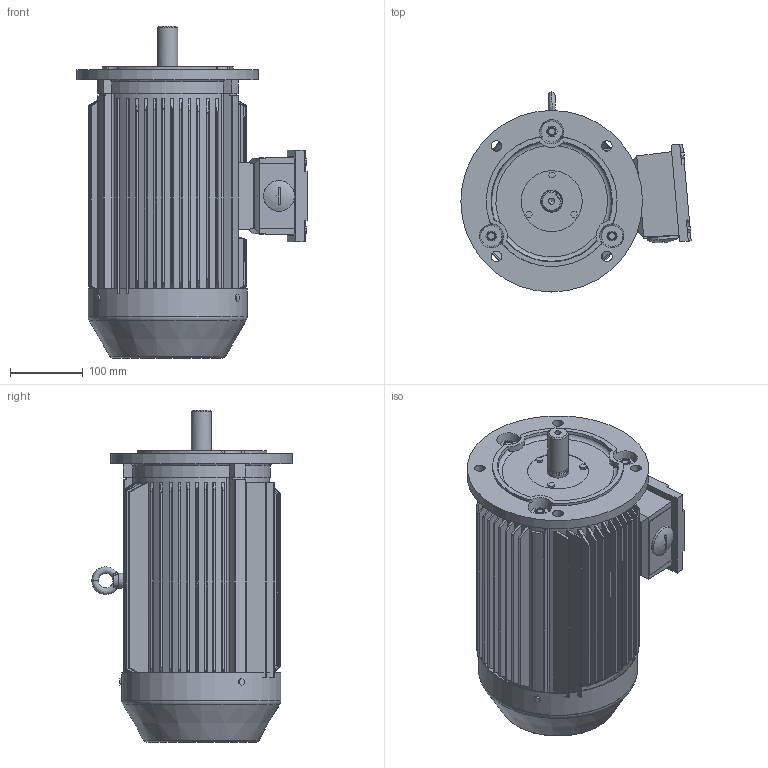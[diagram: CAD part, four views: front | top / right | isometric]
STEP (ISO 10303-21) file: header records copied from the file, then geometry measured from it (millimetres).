
FILE_DESCRIPTION(/* description */ (''),/* implementation_level */ '2;1');
FILE_NAME(/* name */ 'C:/Users/luigi_zhang/Desktop/temp/TE3-112M B5-V1╔╧.step',/* time_stamp */ '2020-07-01T16:07:39+10:00',/* author */ (''),/* organization */ (''),/* preprocessor_version */ 'ST-DEVELOPER v18.1',/* originating_system */ 'Autodesk Translation Framework v9.3.0.1241',/* authorisation */ '');
FILE_SCHEMA (('AUTOMOTIVE_DESIGN { 1 0 10303 214 3 1 1 }'));
Length unit declared in the file: millimetre
Products named in the file (7): (Unsaved); TE3-112M»ú×ù B5V1ÉÏ; YX3-112 ·çÕÖ; TE3-112 Í¹Ôµ¶Ë¸Ç£¨
B5,B35£©; YE3-112MÖá£¨ÖáÉì£©; eyebolts gb_GB_FASTENER_SCREWS_FRS M8-N; hex head bolts-reduced shank grade b gb_GB_FASTENER_BOLT_HHBB M8X50-N
Assembly tree (8 placements, depth 2):
  (Unsaved)
    TE3-112M»ú×ù B5V1ÉÏ
    YX3-112 ·çÕÖ
    TE3-112 Í¹Ôµ¶Ë¸Ç£¨
B5,B35£©
    hex head bolts-reduced shank grade b gb_GB_FASTENER_BOLT_HHBB M8X50-N  x3
    YE3-112MÖá£¨ÖáÉì£©
    eyebolts gb_GB_FASTENER_SCREWS_FRS M8-N
Bounding box: 316.97 x 275.6 x 457 mm (x, y, z)
Volume: 4360262.6 mm3; surface area: 1085423.2 mm2
Topology: 8 solids, 8 shells, 1305 faces, 3389 edges, 2244 vertices
Faces by surface type: plane 717, cylinder 435, cone 113, bspline 24, torus 15, sphere 1
Full cylindrical faces by diameter (mm): 7.188 x3, 8 x8, 8.5 x1, 9.2 x3, 10 x3, 14.5 x4, 27.5 x1, 28 x1, 29.5 x1, 30 x2, 38 x1, 42.7 x1, 84 x1, 175 x1, 178 x1, 217 x1, 219 x1, 250 x1
Entity records: 44369 total; most frequent: CARTESIAN_POINT 12690, ORIENTED_EDGE 6646, DIRECTION 6491, EDGE_CURVE 3323, AXIS2_PLACEMENT_3D 2257, VERTEX_POINT 2202, LINE 1977, VECTOR 1977
